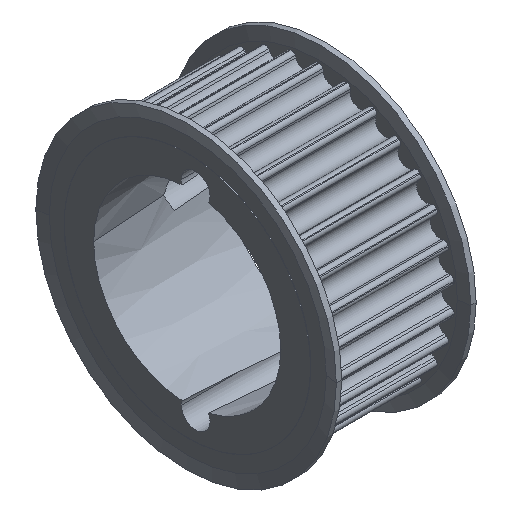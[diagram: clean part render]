
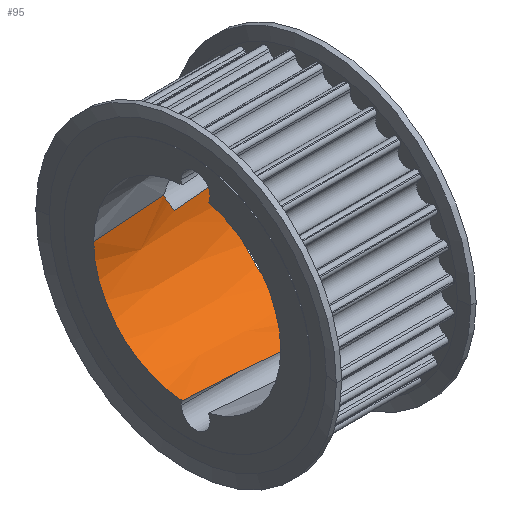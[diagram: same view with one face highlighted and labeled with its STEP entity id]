
A CAD part, isometric view. The second image highlights one B-rep face of the part: STEP entity #95.
In plain terms, the highlighted conical face has half-angle 4 degrees and reference radius 27.171 mm.
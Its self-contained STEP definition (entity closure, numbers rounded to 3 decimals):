
#95 = ADVANCED_FACE( '', ( #452 ), #453, .F. );
#452 = FACE_OUTER_BOUND( '', #1130, .T. );
#453 = CONICAL_SURFACE( '', #1131, 27.171, 0.07 );
#1130 = EDGE_LOOP( '', ( #1913, #1914, #1915, #1916, #1917, #1918, #1919 ) );
#1131 = AXIS2_PLACEMENT_3D( '', #1920, #1921, #1922 );
#1913 = ORIENTED_EDGE( '', *, *, #5268, .T. );
#1914 = ORIENTED_EDGE( '', *, *, #5289, .T. );
#1915 = ORIENTED_EDGE( '', *, *, #5261, .T. );
#1916 = ORIENTED_EDGE( '', *, *, #5266, .T. );
#1917 = ORIENTED_EDGE( '', *, *, #5290, .F. );
#1918 = ORIENTED_EDGE( '', *, *, #5256, .T. );
#1919 = ORIENTED_EDGE( '', *, *, #5259, .T. );
#1920 = CARTESIAN_POINT( '', ( 19., 0., 0. ) );
#1921 = DIRECTION( '', ( 1., 0., 0. ) );
#1922 = DIRECTION( '', ( 0., 1., 0. ) );
#5256 = EDGE_CURVE( '', #6511, #6509, #6512, .T. );
#5259 = EDGE_CURVE( '', #6509, #6514, #6516, .T. );
#5261 = EDGE_CURVE( '', #6520, #6518, #6521, .T. );
#5266 = EDGE_CURVE( '', #6518, #6528, #6530, .T. );
#5268 = EDGE_CURVE( '', #6514, #6532, #6533, .T. );
#5289 = EDGE_CURVE( '', #6532, #6520, #6567, .T. );
#5290 = EDGE_CURVE( '', #6511, #6528, #6568, .T. );
#6509 = VERTEX_POINT( '', #8520 );
#6511 = VERTEX_POINT( '', #8522 );
#6512 = B_SPLINE_CURVE_WITH_KNOTS( '', 3, ( #8523, #8524, #8525, #8526, #8527, #8528 ), .UNSPECIFIED., .F., .F., ( 4, 2, 4 ), ( 0.991, 7.755, 14.52 ), .UNSPECIFIED. );
#6514 = VERTEX_POINT( '', #8530 );
#6516 = B_SPLINE_CURVE_WITH_KNOTS( '', 3, ( #8533, #8534, #8535, #8536, #8537, #8538, #8539, #8540, #8541, #8542, #8543, #8544, #8545, #8546, #8547, #8548, #8549, #8550, #8551, #8552, #8553, #8554, #8555, #8556, #8557, #8558, #8559, #8560, #8561, #8562 ), .UNSPECIFIED., .F., .F., ( 4, 2, 2, 2, 2, 2, 2, 2, 2, 2, 2, 2, 2, 2, 4 ), ( 1.935, 3.423, 5.135, 5.99, 6.418, 6.846, 7.009, 7.171, 7.334, 7.496, 7.924, 8.352, 9.208, 10.92, 12.408 ), .UNSPECIFIED. );
#6518 = VERTEX_POINT( '', #8564 );
#6520 = VERTEX_POINT( '', #8567 );
#6521 = B_SPLINE_CURVE_WITH_KNOTS( '', 3, ( #8568, #8569, #8570, #8571, #8572, #8573, #8574, #8575, #8576, #8577 ), .UNSPECIFIED., .F., .F., ( 4, 2, 2, 2, 4 ), ( 0.989, 6.888, 13.775, 25.686, 36.603 ), .UNSPECIFIED. );
#6528 = VERTEX_POINT( '', #8594 );
#6530 = B_SPLINE_CURVE_WITH_KNOTS( '', 3, ( #8596, #8597, #8598, #8599, #8600, #8601, #8602, #8603, #8604, #8605 ), .UNSPECIFIED., .F., .F., ( 4, 2, 2, 2, 4 ), ( 0.989, 6.888, 13.775, 25.686, 36.603 ), .UNSPECIFIED. );
#6532 = VERTEX_POINT( '', #8607 );
#6533 = LINE( '', #8608, #8609 );
#6567 = CIRCLE( '', #8725, 25.843 );
#6568 = CIRCLE( '', #8726, 28.5 );
#8520 = CARTESIAN_POINT( '', ( 23.5, 27.046, -4.9 ) );
#8522 = CARTESIAN_POINT( '', ( 38., 28.098, -4.772 ) );
#8523 = CARTESIAN_POINT( '', ( 38., 28.098, -4.772 ) );
#8524 = CARTESIAN_POINT( '', ( 35.698, 27.928, -4.812 ) );
#8525 = CARTESIAN_POINT( '', ( 33.224, 27.746, -4.844 ) );
#8526 = CARTESIAN_POINT( '', ( 28.277, 27.388, -4.887 ) );
#8527 = CARTESIAN_POINT( '', ( 25.803, 27.21, -4.898 ) );
#8528 = CARTESIAN_POINT( '', ( 23.5, 27.046, -4.9 ) );
#8530 = CARTESIAN_POINT( '', ( 20.853, 27.301, 0. ) );
#8533 = CARTESIAN_POINT( '', ( 23.5, 27.046, -4.9 ) );
#8534 = CARTESIAN_POINT( '', ( 23.235, 27.11, -4.44 ) );
#8535 = CARTESIAN_POINT( '', ( 22.966, 27.164, -3.971 ) );
#8536 = CARTESIAN_POINT( '', ( 22.387, 27.253, -2.962 ) );
#8537 = CARTESIAN_POINT( '', ( 22.078, 27.285, -2.421 ) );
#8538 = CARTESIAN_POINT( '', ( 21.627, 27.308, -1.626 ) );
#8539 = CARTESIAN_POINT( '', ( 21.479, 27.312, -1.364 ) );
#8540 = CARTESIAN_POINT( '', ( 21.265, 27.313, -0.975 ) );
#8541 = CARTESIAN_POINT( '', ( 21.194, 27.312, -0.847 ) );
#8542 = CARTESIAN_POINT( '', ( 21.059, 27.309, -0.59 ) );
#8543 = CARTESIAN_POINT( '', ( 20.992, 27.307, -0.463 ) );
#8544 = CARTESIAN_POINT( '', ( 20.916, 27.304, -0.282 ) );
#8545 = CARTESIAN_POINT( '', ( 20.894, 27.303, -0.226 ) );
#8546 = CARTESIAN_POINT( '', ( 20.863, 27.301, -0.112 ) );
#8547 = CARTESIAN_POINT( '', ( 20.853, 27.301, -0.054 ) );
#8548 = CARTESIAN_POINT( '', ( 20.853, 27.301, 0.054 ) );
#8549 = CARTESIAN_POINT( '', ( 20.863, 27.301, 0.112 ) );
#8550 = CARTESIAN_POINT( '', ( 20.894, 27.303, 0.226 ) );
#8551 = CARTESIAN_POINT( '', ( 20.916, 27.304, 0.282 ) );
#8552 = CARTESIAN_POINT( '', ( 20.992, 27.307, 0.463 ) );
#8553 = CARTESIAN_POINT( '', ( 21.059, 27.309, 0.59 ) );
#8554 = CARTESIAN_POINT( '', ( 21.194, 27.312, 0.847 ) );
#8555 = CARTESIAN_POINT( '', ( 21.265, 27.313, 0.975 ) );
#8556 = CARTESIAN_POINT( '', ( 21.479, 27.312, 1.364 ) );
#8557 = CARTESIAN_POINT( '', ( 21.627, 27.308, 1.626 ) );
#8558 = CARTESIAN_POINT( '', ( 22.078, 27.285, 2.421 ) );
#8559 = CARTESIAN_POINT( '', ( 22.387, 27.253, 2.962 ) );
#8560 = CARTESIAN_POINT( '', ( 22.966, 27.164, 3.971 ) );
#8561 = CARTESIAN_POINT( '', ( 23.235, 27.11, 4.44 ) );
#8562 = CARTESIAN_POINT( '', ( 23.5, 27.046, 4.9 ) );
#8564 = CARTESIAN_POINT( '', ( 17.011, 1.598, -26.985 ) );
#8567 = CARTESIAN_POINT( '', ( 0., 1.417, -25.804 ) );
#8568 = CARTESIAN_POINT( '', ( 0., 1.417, -25.804 ) );
#8569 = CARTESIAN_POINT( '', ( 2.013, 1.461, -25.942 ) );
#8570 = CARTESIAN_POINT( '', ( 4.171, 1.499, -26.091 ) );
#8571 = CARTESIAN_POINT( '', ( 8.847, 1.561, -26.415 ) );
#8572 = CARTESIAN_POINT( '', ( 11.366, 1.582, -26.591 ) );
#8573 = CARTESIAN_POINT( '', ( 17.617, 1.608, -27.027 ) );
#8574 = CARTESIAN_POINT( '', ( 21.974, 1.595, -27.333 ) );
#8575 = CARTESIAN_POINT( '', ( 30.322, 1.496, -27.923 ) );
#8576 = CARTESIAN_POINT( '', ( 34.314, 1.415, -28.207 ) );
#8577 = CARTESIAN_POINT( '', ( 38., 1.308, -28.47 ) );
#8594 = CARTESIAN_POINT( '', ( 38., 1.308, -28.47 ) );
#8596 = CARTESIAN_POINT( '', ( 0., 1.417, -25.804 ) );
#8597 = CARTESIAN_POINT( '', ( 2.013, 1.461, -25.942 ) );
#8598 = CARTESIAN_POINT( '', ( 4.171, 1.499, -26.091 ) );
#8599 = CARTESIAN_POINT( '', ( 8.847, 1.561, -26.415 ) );
#8600 = CARTESIAN_POINT( '', ( 11.366, 1.582, -26.591 ) );
#8601 = CARTESIAN_POINT( '', ( 17.617, 1.608, -27.027 ) );
#8602 = CARTESIAN_POINT( '', ( 21.974, 1.595, -27.333 ) );
#8603 = CARTESIAN_POINT( '', ( 30.322, 1.496, -27.923 ) );
#8604 = CARTESIAN_POINT( '', ( 34.314, 1.415, -28.207 ) );
#8605 = CARTESIAN_POINT( '', ( 38., 1.308, -28.47 ) );
#8607 = CARTESIAN_POINT( '', ( 0., 25.843, 0. ) );
#8608 = CARTESIAN_POINT( '', ( 19., 27.171, 0. ) );
#8609 = VECTOR( '', #11213, 1. );
#8725 = AXIS2_PLACEMENT_3D( '', #11247, #11248, #11249 );
#8726 = AXIS2_PLACEMENT_3D( '', #11250, #11251, #11252 );
#11213 = DIRECTION( '', ( -0.998, -0.07, 0. ) );
#11247 = CARTESIAN_POINT( '', ( 0., 0., 0. ) );
#11248 = DIRECTION( '', ( -1., 0., 0. ) );
#11249 = DIRECTION( '', ( 0., 1., 0. ) );
#11250 = CARTESIAN_POINT( '', ( 38., 0., 0. ) );
#11251 = DIRECTION( '', ( -1., 0., 0. ) );
#11252 = DIRECTION( '', ( 0., 1., 0. ) );
